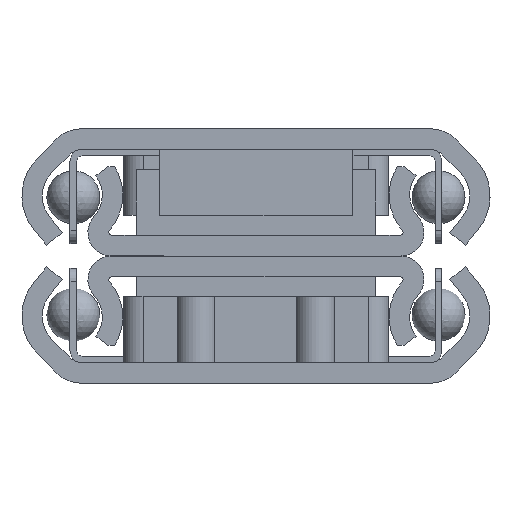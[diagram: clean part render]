
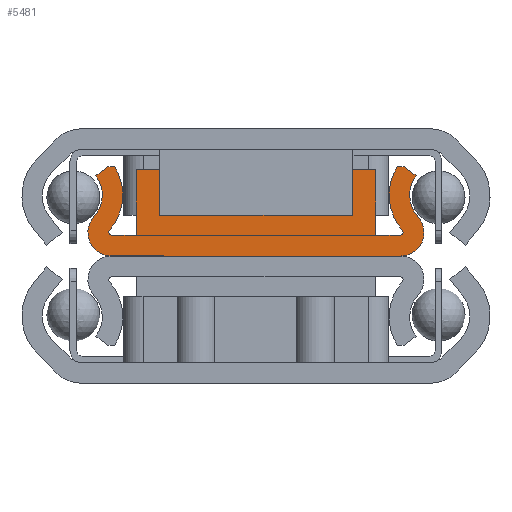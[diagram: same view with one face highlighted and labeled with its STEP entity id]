
A CAD part, left-side view. The second image highlights one B-rep face of the part: STEP entity #5481.
In plain terms, the highlighted planar face has unit normal (-1, 0, 0) as drawn and (0, 0, 1) by its records, which use the part's own axes.
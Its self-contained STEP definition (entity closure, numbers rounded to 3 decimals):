
#298=PLANE('',#6033);
#751=LINE('',#9074,#1257);
#760=LINE('',#9093,#1266);
#762=LINE('',#9097,#1268);
#764=LINE('',#9101,#1270);
#766=LINE('',#9105,#1272);
#768=LINE('',#9109,#1274);
#770=LINE('',#9112,#1276);
#771=LINE('',#9116,#1277);
#786=LINE('',#9172,#1292);
#789=LINE('',#9178,#1295);
#793=LINE('',#9194,#1299);
#796=LINE('',#9198,#1302);
#800=LINE('',#9215,#1306);
#803=LINE('',#9221,#1309);
#1257=VECTOR('',#7483,4.948);
#1266=VECTOR('',#7496,4.948);
#1268=VECTOR('',#7500,4.25);
#1270=VECTOR('',#7504,2.136);
#1272=VECTOR('',#7508,8.);
#1274=VECTOR('',#7512,2.136);
#1276=VECTOR('',#7516,4.25);
#1277=VECTOR('',#7519,21.757);
#1292=VECTOR('',#7576,1.129);
#1295=VECTOR('',#7581,0.515);
#1299=VECTOR('',#7599,1.869);
#1302=VECTOR('',#7602,1.869);
#1306=VECTOR('',#7620,0.515);
#1309=VECTOR('',#7625,1.129);
#1702=FACE_OUTER_BOUND('',#2106,.T.);
#2106=EDGE_LOOP('',(#5080,#5081,#5082,#5083,#5084,#5085,#5086,#5087,#5088,
#5089,#5090,#5091,#5092,#5093,#5094,#5095,#5096,#5097,#5098,#5099,#5100,
#5101));
#2335=CIRCLE('',#6006,1.772);
#2337=CIRCLE('',#6009,2.424);
#2339=CIRCLE('',#6014,3.976);
#2341=CIRCLE('',#6017,0.224);
#2343=CIRCLE('',#6021,0.224);
#2345=CIRCLE('',#6024,3.976);
#2347=CIRCLE('',#6029,2.424);
#2349=CIRCLE('',#6032,1.772);
#2817=VERTEX_POINT('',#9068);
#2819=VERTEX_POINT('',#9072);
#2826=VERTEX_POINT('',#9090);
#2827=VERTEX_POINT('',#9092);
#2828=VERTEX_POINT('',#9096);
#2829=VERTEX_POINT('',#9100);
#2830=VERTEX_POINT('',#9104);
#2831=VERTEX_POINT('',#9108);
#2832=VERTEX_POINT('',#9114);
#2833=VERTEX_POINT('',#9115);
#2849=VERTEX_POINT('',#9159);
#2851=VERTEX_POINT('',#9165);
#2853=VERTEX_POINT('',#9171);
#2855=VERTEX_POINT('',#9177);
#2857=VERTEX_POINT('',#9183);
#2859=VERTEX_POINT('',#9189);
#2860=VERTEX_POINT('',#9193);
#2863=VERTEX_POINT('',#9202);
#2865=VERTEX_POINT('',#9208);
#2867=VERTEX_POINT('',#9214);
#2869=VERTEX_POINT('',#9220);
#2871=VERTEX_POINT('',#9226);
#3541=EDGE_CURVE('',#2817,#2819,#751,.T.);
#3550=EDGE_CURVE('',#2827,#2826,#760,.T.);
#3552=EDGE_CURVE('',#2819,#2828,#762,.T.);
#3554=EDGE_CURVE('',#2828,#2829,#764,.T.);
#3556=EDGE_CURVE('',#2829,#2830,#766,.T.);
#3558=EDGE_CURVE('',#2830,#2831,#768,.T.);
#3560=EDGE_CURVE('',#2831,#2827,#770,.T.);
#3561=EDGE_CURVE('',#2832,#2833,#771,.T.);
#3582=EDGE_CURVE('',#2849,#2832,#2335,.T.);
#3585=EDGE_CURVE('',#2851,#2849,#2337,.T.);
#3588=EDGE_CURVE('',#2853,#2851,#786,.T.);
#3591=EDGE_CURVE('',#2855,#2853,#789,.T.);
#3594=EDGE_CURVE('',#2857,#2855,#2339,.T.);
#3597=EDGE_CURVE('',#2859,#2857,#2341,.T.);
#3599=EDGE_CURVE('',#2860,#2817,#793,.T.);
#3602=EDGE_CURVE('',#2826,#2859,#796,.T.);
#3604=EDGE_CURVE('',#2863,#2860,#2343,.T.);
#3607=EDGE_CURVE('',#2865,#2863,#2345,.T.);
#3610=EDGE_CURVE('',#2867,#2865,#800,.T.);
#3613=EDGE_CURVE('',#2869,#2867,#803,.T.);
#3616=EDGE_CURVE('',#2871,#2869,#2347,.T.);
#3619=EDGE_CURVE('',#2833,#2871,#2349,.T.);
#5080=ORIENTED_EDGE('',*,*,#3561,.T.);
#5081=ORIENTED_EDGE('',*,*,#3619,.T.);
#5082=ORIENTED_EDGE('',*,*,#3616,.T.);
#5083=ORIENTED_EDGE('',*,*,#3613,.T.);
#5084=ORIENTED_EDGE('',*,*,#3610,.T.);
#5085=ORIENTED_EDGE('',*,*,#3607,.T.);
#5086=ORIENTED_EDGE('',*,*,#3604,.T.);
#5087=ORIENTED_EDGE('',*,*,#3599,.T.);
#5088=ORIENTED_EDGE('',*,*,#3541,.T.);
#5089=ORIENTED_EDGE('',*,*,#3552,.T.);
#5090=ORIENTED_EDGE('',*,*,#3554,.T.);
#5091=ORIENTED_EDGE('',*,*,#3556,.T.);
#5092=ORIENTED_EDGE('',*,*,#3558,.T.);
#5093=ORIENTED_EDGE('',*,*,#3560,.T.);
#5094=ORIENTED_EDGE('',*,*,#3550,.T.);
#5095=ORIENTED_EDGE('',*,*,#3602,.T.);
#5096=ORIENTED_EDGE('',*,*,#3597,.T.);
#5097=ORIENTED_EDGE('',*,*,#3594,.T.);
#5098=ORIENTED_EDGE('',*,*,#3591,.T.);
#5099=ORIENTED_EDGE('',*,*,#3588,.T.);
#5100=ORIENTED_EDGE('',*,*,#3585,.T.);
#5101=ORIENTED_EDGE('',*,*,#3582,.T.);
#5481=ADVANCED_FACE('',(#1702),#298,.T.);
#6006=AXIS2_PLACEMENT_3D('',#9160,#7563,#7564);
#6009=AXIS2_PLACEMENT_3D('',#9166,#7570,#7571);
#6014=AXIS2_PLACEMENT_3D('',#9184,#7587,#7588);
#6017=AXIS2_PLACEMENT_3D('',#9190,#7594,#7595);
#6021=AXIS2_PLACEMENT_3D('',#9203,#7607,#7608);
#6024=AXIS2_PLACEMENT_3D('',#9209,#7614,#7615);
#6029=AXIS2_PLACEMENT_3D('',#9227,#7631,#7632);
#6032=AXIS2_PLACEMENT_3D('',#9231,#7638,#7639);
#6033=AXIS2_PLACEMENT_3D('',#9232,#7640,#7641);
#7483=DIRECTION('',(-1.,0.,0.));
#7496=DIRECTION('',(1.,0.,0.));
#7500=DIRECTION('',(0.,-1.,0.));
#7504=DIRECTION('',(0.936,-0.351,0.));
#7508=DIRECTION('',(0.,-1.,0.));
#7512=DIRECTION('',(-0.936,-0.351,0.));
#7516=DIRECTION('',(0.,-1.,0.));
#7519=DIRECTION('',(0.,1.,0.));
#7563=DIRECTION('center_axis',(0.,0.,1.));
#7564=DIRECTION('ref_axis',(-0.67,-0.743,0.));
#7570=DIRECTION('center_axis',(0.,0.,-1.));
#7571=DIRECTION('ref_axis',(-0.67,-0.743,0.));
#7576=DIRECTION('',(0.602,-0.799,0.));
#7581=DIRECTION('',(0.,-1.,0.));
#7587=DIRECTION('center_axis',(0.,0.,1.));
#7588=DIRECTION('ref_axis',(0.668,0.744,0.));
#7594=DIRECTION('center_axis',(0.,0.,-1.));
#7595=DIRECTION('ref_axis',(0.668,0.744,0.));
#7599=DIRECTION('',(0.,-1.,0.));
#7602=DIRECTION('',(0.,-1.,0.));
#7607=DIRECTION('center_axis',(0.,0.,-1.));
#7608=DIRECTION('ref_axis',(-1.,0.,0.));
#7614=DIRECTION('center_axis',(0.,0.,1.));
#7615=DIRECTION('ref_axis',(-0.538,-0.843,0.));
#7620=DIRECTION('',(0.,-1.,0.));
#7625=DIRECTION('',(-0.602,-0.799,0.));
#7631=DIRECTION('center_axis',(0.,0.,-1.));
#7632=DIRECTION('ref_axis',(0.602,0.799,0.));
#7638=DIRECTION('center_axis',(0.,0.,1.));
#7639=DIRECTION('ref_axis',(1.,0.,0.));
#7640=DIRECTION('center_axis',(0.,0.,1.));
#7641=DIRECTION('ref_axis',(1.,0.,0.));
#9068=CARTESIAN_POINT('',(-1.552,9.,480.));
#9072=CARTESIAN_POINT('',(-6.5,9.,480.));
#9074=CARTESIAN_POINT('',(0.,9.,480.));
#9090=CARTESIAN_POINT('',(-1.552,-9.,480.));
#9092=CARTESIAN_POINT('',(-6.5,-9.,480.));
#9093=CARTESIAN_POINT('',(-6.5,-9.,480.));
#9096=CARTESIAN_POINT('',(-6.5,4.75,480.));
#9097=CARTESIAN_POINT('',(-6.5,9.,480.));
#9100=CARTESIAN_POINT('',(-4.5,4.,480.));
#9101=CARTESIAN_POINT('',(-6.5,4.75,480.));
#9104=CARTESIAN_POINT('',(-4.5,-4.,480.));
#9105=CARTESIAN_POINT('',(-4.5,4.,480.));
#9108=CARTESIAN_POINT('',(-6.5,-4.75,480.));
#9109=CARTESIAN_POINT('',(-4.5,-4.,480.));
#9112=CARTESIAN_POINT('',(-6.5,-4.75,480.));
#9114=CARTESIAN_POINT('',(0.,-10.878,480.));
#9115=CARTESIAN_POINT('',(0.,10.878,480.));
#9116=CARTESIAN_POINT('',(0.,-10.878,480.));
#9159=CARTESIAN_POINT('',(-2.958,-12.194,480.));
#9160=CARTESIAN_POINT('Origin',(-1.772,-10.878,480.));
#9165=CARTESIAN_POINT('',(-6.04,-12.058,480.));
#9166=CARTESIAN_POINT('Origin',(-4.582,-13.994,480.));
#9171=CARTESIAN_POINT('',(-6.72,-11.157,480.));
#9172=CARTESIAN_POINT('',(-6.72,-11.157,480.));
#9177=CARTESIAN_POINT('',(-6.72,-10.642,480.));
#9178=CARTESIAN_POINT('',(-6.72,-10.642,480.));
#9183=CARTESIAN_POINT('',(-1.925,-11.036,480.));
#9184=CARTESIAN_POINT('Origin',(-4.582,-13.994,480.));
#9189=CARTESIAN_POINT('',(-1.552,-10.869,480.));
#9190=CARTESIAN_POINT('Origin',(-1.776,-10.869,480.));
#9193=CARTESIAN_POINT('',(-1.552,10.869,480.));
#9194=CARTESIAN_POINT('',(-1.552,10.869,480.));
#9198=CARTESIAN_POINT('',(-1.552,10.869,480.));
#9202=CARTESIAN_POINT('',(-1.925,11.036,480.));
#9203=CARTESIAN_POINT('Origin',(-1.776,10.869,480.));
#9208=CARTESIAN_POINT('',(-6.72,10.642,480.));
#9209=CARTESIAN_POINT('Origin',(-4.582,13.994,480.));
#9214=CARTESIAN_POINT('',(-6.72,11.157,480.));
#9215=CARTESIAN_POINT('',(-6.72,11.157,480.));
#9220=CARTESIAN_POINT('',(-6.04,12.058,480.));
#9221=CARTESIAN_POINT('',(-6.04,12.058,480.));
#9226=CARTESIAN_POINT('',(-2.958,12.194,480.));
#9227=CARTESIAN_POINT('Origin',(-4.582,13.994,480.));
#9231=CARTESIAN_POINT('Origin',(-1.772,10.878,480.));
#9232=CARTESIAN_POINT('Origin',(-1.796,0.,
480.));
